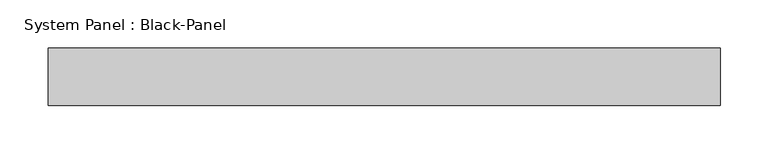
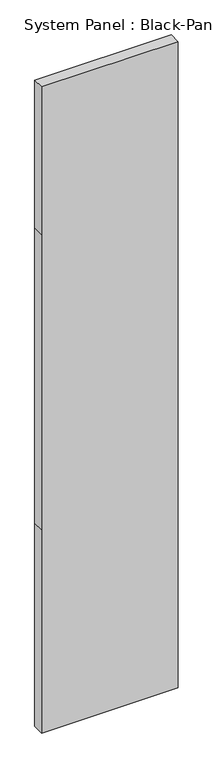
"""IFC4 building model written with IfcOpenShell, lengths in millimetres: plate geometry, System Panel : Black-Panel."""

import ifcopenshell
import ifcopenshell.guid

model = None  # the IFC model being written
_history = None  # IfcOwnerHistory: only IFC2X3 demands one
_inside = {}  # id of a spatial element -> (the spatial element, [elements in it])
_under = {}  # id of a project, library or spatial element -> (it, [spatial elements below it])
_declared = {}  # id of a project -> (the project, [libraries it declares])
_typed = {}  # id of a type object -> (the type object, [elements of that type])
_made_of = {}  # id of a material, layer set ... -> (it, [elements and type objects made of it])


def new_model(schema):
    """Start an empty IFC model of exactly this schema.

    Asked for "IFC4X3", IfcOpenShell would pick the latest addendum, in which some entities
    have other attributes; the version numbers below select the first issue.
    IFC2X3 requires an IfcOwnerHistory on every rooted entity: one is made here for all.
    """
    global model, _history
    if schema == "IFC4X3":
        model = ifcopenshell.file(schema_version=(4, 3, 0, 0))
    else:
        model = ifcopenshell.file(schema=schema)
    _inside.clear()
    _under.clear()
    _declared.clear()
    _typed.clear()
    _made_of.clear()
    _history = None
    if model.schema == "IFC2X3":
        org = make("IfcOrganization", Name="unknown")
        user = make(
            "IfcPersonAndOrganization",
            ThePerson=make("IfcPerson", FamilyName="unknown"),
            TheOrganization=org,
        )
        app = make(
            "IfcApplication",
            ApplicationDeveloper=org,
            Version="unknown",
            ApplicationFullName="unknown",
            ApplicationIdentifier="unknown",
        )
        _history = make(
            "IfcOwnerHistory",
            OwningUser=user,
            OwningApplication=app,
            ChangeAction="ADDED",
            CreationDate=0,
        )
    return model


def make(cls, **values):
    """One entity of the class cls with the attributes given. An attribute that is None is left unset."""
    return model.create_entity(
        cls, **{name: value for name, value in values.items() if value is not None}
    )


def rooted(cls, **values):
    """An entity with a GlobalId (a new one), such as an element, a storey or a relation."""
    return make(cls, GlobalId=ifcopenshell.guid.new(), OwnerHistory=_history, **values)


def si_unit(unit_type, name, prefix=None):
    """IfcSIUnit, for example si_unit("LENGTHUNIT", "METRE", prefix="MILLI")."""
    return make("IfcSIUnit", UnitType=unit_type, Prefix=prefix, Name=name)


def assignment(units):
    """IfcUnitAssignment: the units of a project."""
    return None if units is None else make("IfcUnitAssignment", Units=units)


def point(xyz):
    """IfcCartesianPoint."""
    return None if xyz is None else make("IfcCartesianPoint", Coordinates=xyz)


def direction(xyz):
    """IfcDirection."""
    return None if xyz is None else make("IfcDirection", DirectionRatios=xyz)


def frame(location, z_axis=None, x_axis=None):
    """IfcAxis2Placement3D, a coordinate frame: its origin and axes. An axis left out is left unset."""
    return make(
        "IfcAxis2Placement3D",
        Location=point(location),
        Axis=direction(z_axis),
        RefDirection=direction(x_axis),
    )


def origin():
    """The frame at (0, 0, 0) with its axes left unset."""
    return frame((0.0, 0.0, 0.0))


def place(relative_to, where):
    """IfcLocalPlacement: puts the frame where relative to a parent placement (None: the world)."""
    return make(
        "IfcLocalPlacement", PlacementRelTo=relative_to, RelativePlacement=where
    )


def context(
    kind, dimensions, precision=None, world=None, true_north=None, identifier=None
):
    """IfcGeometricRepresentationContext, for example the 3D "Model" context."""
    return make(
        "IfcGeometricRepresentationContext",
        ContextIdentifier=identifier,
        ContextType=kind,
        CoordinateSpaceDimension=dimensions,
        Precision=precision,
        WorldCoordinateSystem=world,
        TrueNorth=true_north,
    )


def project(units=None, contexts=None):
    """IfcProject with its units and contexts."""
    return rooted(
        "IfcProject",
        Name="project",
        RepresentationContexts=contexts,
        UnitsInContext=assignment(units),
    )


def spatial(cls, under=None, at=None, **own):
    """A site, building, storey or space (cls), placed at a placement, below another one or the project."""
    s = rooted(cls, ObjectPlacement=at, **own)
    if under is not None:
        _under.setdefault(under.id(), (under, []))[1].append(s)
    return s


def polyline(points):
    """IfcPolyline through the points."""
    return make("IfcPolyline", Points=[point(p) for p in points])


def outline(outer, holes=None, kind="AREA"):
    """IfcArbitraryClosedProfileDef: a profile drawn as a closed curve; with holes, ...WithVoids."""
    if holes is None:
        return make("IfcArbitraryClosedProfileDef", ProfileType=kind, OuterCurve=outer)
    return make(
        "IfcArbitraryProfileDefWithVoids",
        ProfileType=kind,
        OuterCurve=outer,
        InnerCurves=holes,
    )


def extrude(swept, where, along, depth):
    """IfcExtrudedAreaSolid: the profile swept, set in the frame where, extruded along a direction by depth."""
    return make(
        "IfcExtrudedAreaSolid",
        SweptArea=swept,
        Position=where,
        ExtrudedDirection=direction(along),
        Depth=depth,
    )


def shape(context_of_items, identifier, shape_type, items):
    """IfcShapeRepresentation: the items that make up one representation, for example the "Body"."""
    return make(
        "IfcShapeRepresentation",
        ContextOfItems=context_of_items,
        RepresentationIdentifier=identifier,
        RepresentationType=shape_type,
        Items=items,
    )


def source(mapping_origin, context_of_items, identifier, shape_type, items):
    """IfcRepresentationMap: a shape defined once, which mapped items show again and again."""
    return make(
        "IfcRepresentationMap",
        MappingOrigin=mapping_origin,
        MappedRepresentation=shape(context_of_items, identifier, shape_type, items),
    )


def transform(
    local_origin,
    x_axis=None,
    y_axis=None,
    z_axis=None,
    scale=None,
    scale2=None,
    scale3=None,
    uniform=True,
):
    """IfcCartesianTransformationOperator3D, or its non-uniform kind. x_axis, y_axis, z_axis: its Axis1, 2, 3."""
    if uniform:
        return make(
            "IfcCartesianTransformationOperator3D",
            Axis1=direction(x_axis),
            Axis2=direction(y_axis),
            LocalOrigin=point(local_origin),
            Scale=scale,
            Axis3=direction(z_axis),
        )
    return make(
        "IfcCartesianTransformationOperator3DnonUniform",
        Axis1=direction(x_axis),
        Axis2=direction(y_axis),
        LocalOrigin=point(local_origin),
        Scale=scale,
        Axis3=direction(z_axis),
        Scale2=scale2,
        Scale3=scale3,
    )


def mapped(mapping_source, mapping_target):
    """IfcMappedItem: shows the shape of a source again, moved by a transform."""
    return make(
        "IfcMappedItem", MappingSource=mapping_source, MappingTarget=mapping_target
    )


def made_of(thing, what):
    """Note that an element or type object is made of a material, layer set ...; save() writes the relation."""
    if what is not None:
        _made_of.setdefault(what.id(), (what, []))[1].append(thing)
    return thing


def element(
    cls,
    number,
    at=None,
    inside=None,
    cuts=None,
    type_object=None,
    material=None,
    context=None,
    identifier="Body",
    shape_type=None,
    held_by="IfcProductDefinitionShape",
    body=None,
    shapes=None,
    **own,
):
    """One element of the class cls, such as IfcWall. Its Tag is "e" and its number.

    at: its placement. inside: the storey or other place that contains it. cuts: it is an
    opening in that element (IfcRelVoidsElement). A single representation is given by context,
    identifier, shape_type and body (its items); several are given by shapes. held_by: the class
    of the entity that holds the representations. save() writes the other relations.
    """
    e = rooted(cls, Tag="e%d" % number, ObjectPlacement=at, **own)
    if body is not None:
        shapes = [shape(context, identifier, shape_type, body)]
    if shapes is not None:
        e.Representation = make(held_by, Representations=shapes)
    if inside is not None:
        _inside.setdefault(inside.id(), (inside, []))[1].append(e)
    if cuts is not None:
        rooted(
            "IfcRelVoidsElement", RelatingBuildingElement=cuts, RelatedOpeningElement=e
        )
    if type_object is not None:
        _typed.setdefault(type_object.id(), (type_object, []))[1].append(e)
    return made_of(e, material)


def aggregate(whole, parts):
    """IfcRelAggregates: a whole, such as a stair, and the parts it consists of."""
    return rooted("IfcRelAggregates", RelatingObject=whole, RelatedObjects=parts)


def save(model, path):
    """Write the relations noted so far, then the file.

    IfcRelAggregates (storeys below a building ...), IfcRelContainedInSpatialStructure (elements
    in a storey), IfcRelDefinesByType, IfcRelAssociatesMaterial and IfcRelDeclares: one each for
    every whole, place, type object, material and project.
    """
    for whole, parts in _under.values():
        aggregate(whole, parts)
    for where, things in _inside.values():
        rooted(
            "IfcRelContainedInSpatialStructure",
            RelatedElements=things,
            RelatingStructure=where,
        )
    for kind, things in _typed.values():
        rooted("IfcRelDefinesByType", RelatedObjects=things, RelatingType=kind)
    for what, things in _made_of.values():
        rooted("IfcRelAssociatesMaterial", RelatedObjects=things, RelatingMaterial=what)
    for by, libraries in _declared.values():
        rooted("IfcRelDeclares", RelatingContext=by, RelatedDefinitions=libraries)
    model.write(path)


def system_panel_black_panel_b553a8d2(model_context):
    return source(origin(), model_context, "Body", "SweptSolid", [
        extrude(outline(polyline([(0.0, -350.0), (0.0, 350.0), (1100.0, 350.0), (2700.0, 350.0), (3500.0, 350.0), (3500.0, -350.0), (2700.0, -350.0), (1100.0, -350.0), (0.0, -350.0)])), frame((0.0, -10.5, 0.0), z_axis=(0.0, 1.0, 0.0), x_axis=(0.0, 0.0, 1.0)), (0.0, 0.0, 1.0), 60.0),
    ])


if __name__ == "__main__":
    model = new_model("IFC4")
    model_context = context("Model", 3, world=origin())
    ifc_project = project(units=[si_unit("LENGTHUNIT", "METRE", prefix="MILLI")], contexts=[model_context])
    site = spatial("IfcSite", under=ifc_project)
    building = spatial("IfcBuilding", under=site)
    placement = place(None, origin())
    system_panel_black_panel_shape = system_panel_black_panel_b553a8d2(model_context)
    element("IfcPlate", 1, ObjectType="System Panel : Black-Panel", at=placement, inside=building, context=model_context, shape_type="MappedRepresentation", body=[
        mapped(system_panel_black_panel_shape, transform((0.0, 0.0, 0.0), x_axis=(1.0, 0.0, 0.0), y_axis=(0.0, 1.0, 0.0), z_axis=(0.0, 0.0, 1.0))),
    ])
    save(model, "model.ifc")
